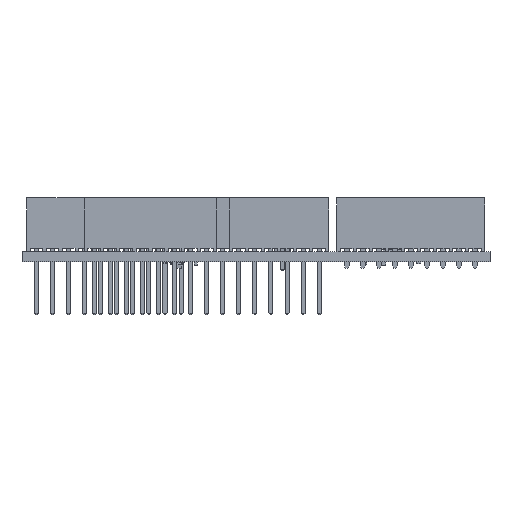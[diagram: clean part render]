
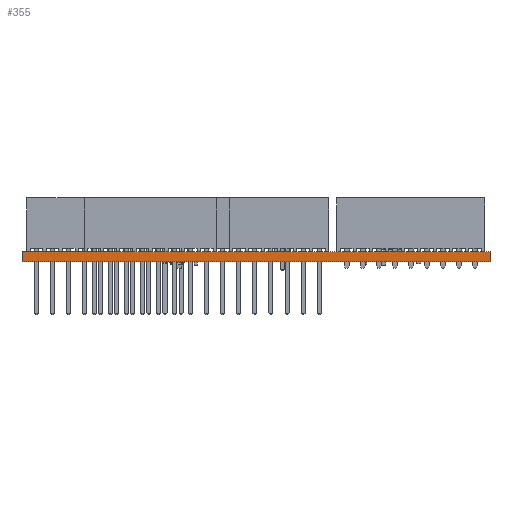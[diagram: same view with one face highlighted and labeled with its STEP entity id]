
A CAD part, front view. The second image highlights one B-rep face of the part: STEP entity #355.
In plain terms, the highlighted planar face has unit normal (0, -1, 0).
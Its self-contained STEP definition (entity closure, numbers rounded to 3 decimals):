
#133 = EDGE_CURVE('',#134,#136,#138,.T.);
#134 = VERTEX_POINT('',#135);
#135 = CARTESIAN_POINT('',(0.,0.,0.));
#136 = VERTEX_POINT('',#137);
#137 = CARTESIAN_POINT('',(0.,0.,1.6));
#138 = LINE('',#139,#140);
#139 = CARTESIAN_POINT('',(0.,0.,0.));
#140 = VECTOR('',#141,1.);
#141 = DIRECTION('',(0.,0.,1.));
#330 = VERTEX_POINT('',#331);
#331 = CARTESIAN_POINT('',(74.,0.,1.6));
#337 = EDGE_CURVE('',#338,#330,#340,.T.);
#338 = VERTEX_POINT('',#339);
#339 = CARTESIAN_POINT('',(74.,0.,0.));
#340 = LINE('',#341,#342);
#341 = CARTESIAN_POINT('',(74.,0.,0.));
#342 = VECTOR('',#343,1.);
#343 = DIRECTION('',(0.,0.,1.));
#355 = ADVANCED_FACE('',(#356),#372,.T.);
#356 = FACE_BOUND('',#357,.T.);
#357 = EDGE_LOOP('',(#358,#359,#365,#366));
#358 = ORIENTED_EDGE('',*,*,#337,.T.);
#359 = ORIENTED_EDGE('',*,*,#360,.T.);
#360 = EDGE_CURVE('',#330,#136,#361,.T.);
#361 = LINE('',#362,#363);
#362 = CARTESIAN_POINT('',(74.,0.,1.6));
#363 = VECTOR('',#364,1.);
#364 = DIRECTION('',(-1.,0.,0.));
#365 = ORIENTED_EDGE('',*,*,#133,.F.);
#366 = ORIENTED_EDGE('',*,*,#367,.F.);
#367 = EDGE_CURVE('',#338,#134,#368,.T.);
#368 = LINE('',#369,#370);
#369 = CARTESIAN_POINT('',(74.,0.,0.));
#370 = VECTOR('',#371,1.);
#371 = DIRECTION('',(-1.,0.,0.));
#372 = PLANE('',#373);
#373 = AXIS2_PLACEMENT_3D('',#374,#375,#376);
#374 = CARTESIAN_POINT('',(74.,0.,0.));
#375 = DIRECTION('',(0.,-1.,0.));
#376 = DIRECTION('',(-1.,0.,0.));
